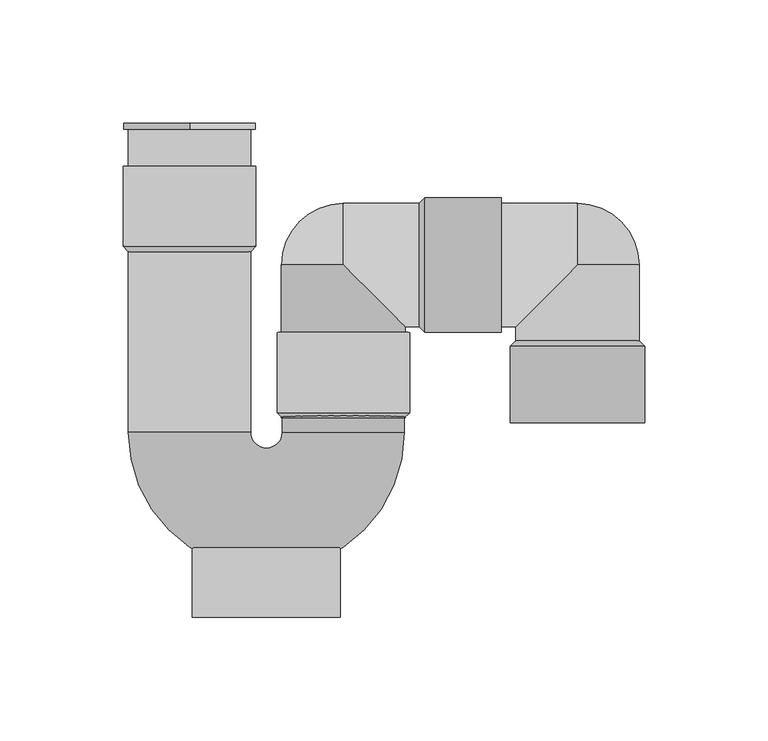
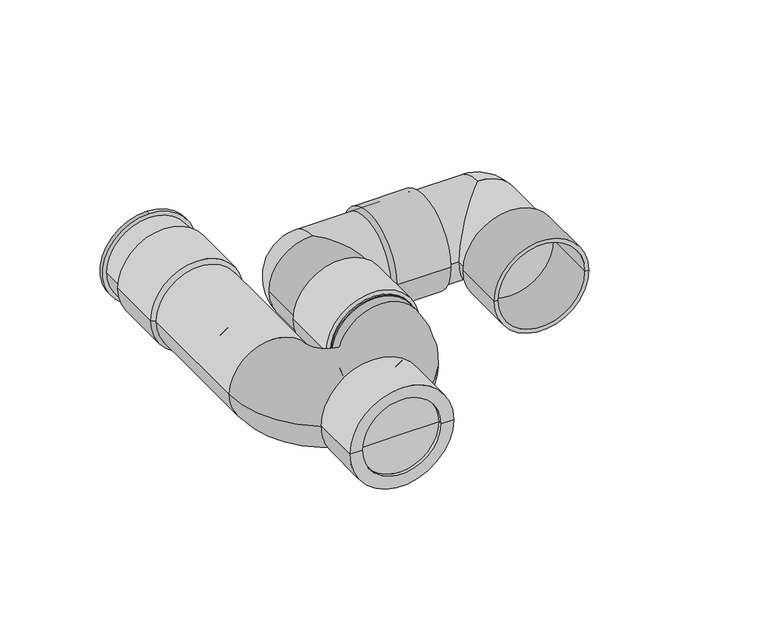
"""IFC4 building model written with IfcOpenShell, lengths in millimetres: pipe fitting geometry, NLRS_52_UN_PIF_PVC Universeel Sifon_PipeLife : Grijs, var. DN/OD."""

from ifc_helpers import new_model, si_unit, point, frame, origin, origin_2d, place, context, project, spatial, polyline, circle_curve, ellipse_curve, trimmed, segment, composite_curve, outline, extrude, source, transform, mapped, element, save
from ifc_brep_helpers import plane_surface, cylinder_surface, revolved_surface, advanced_brep


def pipe_fitting_5ac68bb0(model_context):
    return source(origin(), model_context, "Body", "SolidModel", [
        advanced_brep(
        [(126.4, -11.6183548, 0.0), (126.4, 42.9816452, 0.0), (126.4, 40.7816452, 0.0), (126.4, -9.4183548, 0.0), (95.4, -11.6183548, 0.0), (95.4, 42.9816452, 0.0), (93.2, -9.4183548, 0.0), (93.2, 40.7816452, 0.0)],
        [
            (0, 1, circle_curve(frame((126.4, 15.6816452, 0.0), z_axis=(1.0, 0.0, 0.0), x_axis=(0.0, 1.0000000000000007, 0.0)), 27.3)),
            (1, 2),
            (2, 3, circle_curve(frame((126.4, 15.6816452, 0.0), z_axis=(-1.0, 0.0, 0.0), x_axis=(0.0, 1.0000000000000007, 0.0)), 25.1)),
            (3, 0),
            (1, 0, circle_curve(frame((126.4, 15.6816452, 0.0), z_axis=(1.0, 0.0, 0.0), x_axis=(0.0, 1.0000000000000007, 0.0)), 27.3)),
            (3, 2, circle_curve(frame((126.4, 15.6816452, 0.0), z_axis=(-1.0, 0.0, 0.0), x_axis=(0.0, 1.0000000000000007, 0.0)), 25.1)),
            (4, 5, circle_curve(frame((95.4, 15.6816452, 0.0), z_axis=(1.0, 0.0, 0.0), x_axis=(0.0, 1.0000000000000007, 0.0)), 27.3)),
            (5, 1),
            (0, 4),
            (5, 4, circle_curve(frame((95.4, 15.6816452, 0.0), z_axis=(1.0, 0.0, 0.0), x_axis=(0.0, 1.0000000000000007, 0.0)), 27.3)),
            (6, 7, circle_curve(frame((93.2, 15.6816452, 0.0), z_axis=(1.0, 0.0, 0.0), x_axis=(0.0, 1.0000000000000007, 0.0)), 25.1)),
            (7, 5),
            (4, 6),
            (7, 6, circle_curve(frame((93.2, 15.6816452, 0.0), z_axis=(1.0, 0.0, 0.0), x_axis=(0.0, 1.0000000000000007, 0.0)), 25.1)),
            (2, 7),
            (6, 3),
        ],
        [
            plane_surface(frame((126.4, 15.6816452, 0.0), z_axis=(1.0, 0.0, 0.0), x_axis=(0.0, 1.0, 0.0))),
            cylinder_surface(frame((95.4, 15.6816452, 0.0), z_axis=(-1.0000000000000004, 0.0, 0.0), x_axis=(0.0, 1.0000000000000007, 0.0)), 27.3),
            revolved_surface(polyline([(95.4, 42.9816452, 0.0), (93.2, 40.7816452, 0.0)]), (95.4, 15.6816452, 0.0), (-1.0000000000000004, 0.0, 0.0)),
            revolved_surface(polyline([(93.2, 40.78164520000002, 0.0), (126.40000000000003, 40.78164520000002, 0.0)]), (95.4, 15.6816452, 0.0), (-1.0000000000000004, 0.0, 0.0)),
        ],
        [
            (0, [[1, 2, 3, 4]]),
            (0, [[5, -4, 6, -2]]),
            (1, [[7, 8, -1, 9]]),
            (1, [[10, -9, -5, -8]]),
            (2, [[11, 12, -7, 13]]),
            (2, [[14, -13, -10, -12]]),
            (3, [[-3, 15, -11, 16]]),
            (3, [[-6, -16, -14, -15]]),
        ],
    ),
        advanced_brep(
        [(37.3, -46.3183548, 0.0), (87.5, -46.3183548, 0.0), (87.5, -9.4183548, 0.0), (62.4, 15.6816452, 25.1), (37.3, 15.6816452, 0.0), (62.4, 15.6816452, -25.1), (95.4, 40.7816452, 0.0), (95.4, -9.4183548, 0.0), (62.4, 40.7816452, 0.0)],
        [
            (0, 1, circle_curve(frame((62.4, -46.3183548, 0.0), z_axis=(0.0, -1.0, 0.0), x_axis=(1.0000000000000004, 0.0, 0.0)), 25.1)),
            (1, 0, circle_curve(frame((62.4, -46.3183548, 0.0), z_axis=(0.0, -1.0, 0.0), x_axis=(1.0000000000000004, 0.0, 0.0)), 25.1)),
            (1, 2),
            (2, 3, ellipse_curve(frame((62.4, 15.6816452, 0.0), z_axis=(-0.7071067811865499, -0.7071067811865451, 0.0), x_axis=(-0.7071067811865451, 0.7071067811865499, 0.0)), 35.4967604, 25.1)),
            (3, 4, circle_curve(frame((62.4, 15.6816452, 0.0), z_axis=(0.0, -1.0, 0.0), x_axis=(1.0000000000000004, 0.0, 0.0)), 25.1)),
            (4, 0),
            (4, 5, circle_curve(frame((62.4, 15.6816452, 0.0), z_axis=(0.0, -1.0, 0.0), x_axis=(1.0000000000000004, 0.0, 0.0)), 25.1)),
            (5, 2, ellipse_curve(frame((62.4, 15.6816452, 0.0), z_axis=(-0.7071067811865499, -0.7071067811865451, 0.0), x_axis=(-0.7071067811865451, 0.7071067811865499, 0.0)), 35.4967604, 25.1)),
            (6, 7, circle_curve(frame((95.4, 15.6816452, 0.0), z_axis=(1.0, 0.0, 0.0), x_axis=(0.0, -1.0000000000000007, 0.0)), 25.1)),
            (7, 6, circle_curve(frame((95.4, 15.6816452, 0.0), z_axis=(1.0, 0.0, 0.0), x_axis=(0.0, -1.0000000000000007, 0.0)), 25.1)),
            (6, 8),
            (8, 3, circle_curve(frame((62.4, 15.6816452, 0.0), z_axis=(1.0, 0.0, 0.0), x_axis=(0.0, -1.0000000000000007, 0.0)), 25.1)),
            (2, 7),
            (5, 8, circle_curve(frame((62.4, 15.6816452, 0.0), z_axis=(1.0, 0.0, 0.0), x_axis=(0.0, -1.0000000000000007, 0.0)), 25.1)),
        ],
        [
            plane_surface(frame((62.4, -46.3183548, 0.0), z_axis=(0.0, -1.0, 0.0), x_axis=(0.0, 0.0, 1.0))),
            cylinder_surface(frame((62.4, 15.6816452, 0.0), z_axis=(0.0, 1.0000000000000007, 0.0), x_axis=(1.0000000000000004, 0.0, 0.0)), 25.1),
            plane_surface(frame((95.4, 15.6816452, 0.0), z_axis=(1.0, 0.0, 0.0), x_axis=(0.0, 0.0, 1.0))),
            cylinder_surface(frame((95.4, 15.6816452, 0.0), z_axis=(1.0000000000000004, 0.0, 0.0), x_axis=(0.0, -1.0000000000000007, 0.0)), 25.1),
            revolved_surface(trimmed(ellipse_curve(frame((62.4, 15.6816452, 0.0), z_axis=(1.0000000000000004, 0.0, 0.0), x_axis=(0.0, 0.0, 1.0000000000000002)), 25.1, 25.1), [point((62.4, 15.6816452, -25.1))], [point((62.4, 15.6816452, 25.1))], True, "CARTESIAN"), (62.4, 15.6816452, -6.3375), (0.0, 0.0, 1.0000000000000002)),
        ],
        [
            (0, [[1, 2]]),
            (1, [[-2, 3, 4, 5, 6]]),
            (1, [[-1, -6, 7, 8, -3]]),
            (2, [[9, 10]]),
            (3, [[-9, 11, 12, -4, 13]]),
            (3, [[-10, -13, -8, 14, -11]]),
            (4, [[-5, -12, -14, -7]]),
        ],
    ),
        advanced_brep(
        [(130.1, -48.3183548, 0.0), (184.7, -48.3183548, 0.0), (182.5, -48.3183548, 0.0), (132.3, -48.3183548, 0.0), (130.1, -17.3183548, 0.0), (184.7, -17.3183548, 0.0), (132.3, -15.1183548, 0.0), (182.5, -15.1183548, 0.0)],
        [
            (0, 1, circle_curve(frame((157.4, -48.3183548, 0.0), z_axis=(0.0, -1.0, 0.0), x_axis=(1.0000000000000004, 0.0, 0.0)), 27.3)),
            (1, 2),
            (2, 3, circle_curve(frame((157.4, -48.3183548, 0.0), z_axis=(0.0, 1.0, 0.0), x_axis=(1.0000000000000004, 0.0, 0.0)), 25.1)),
            (3, 0),
            (1, 0, circle_curve(frame((157.4, -48.3183548, 0.0), z_axis=(0.0, -1.0, 0.0), x_axis=(1.0000000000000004, 0.0, 0.0)), 27.3)),
            (3, 2, circle_curve(frame((157.4, -48.3183548, 0.0), z_axis=(0.0, 1.0, 0.0), x_axis=(1.0000000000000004, 0.0, 0.0)), 25.1)),
            (4, 5, circle_curve(frame((157.4, -17.3183548, 0.0), z_axis=(0.0, -1.0, 0.0), x_axis=(1.0000000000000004, 0.0, 0.0)), 27.3)),
            (5, 1),
            (0, 4),
            (5, 4, circle_curve(frame((157.4, -17.3183548, 0.0), z_axis=(0.0, -1.0, 0.0), x_axis=(1.0000000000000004, 0.0, 0.0)), 27.3)),
            (6, 7, circle_curve(frame((157.4, -15.1183548, 0.0), z_axis=(0.0, -1.0, 0.0), x_axis=(1.0000000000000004, 0.0, 0.0)), 25.1)),
            (7, 5),
            (4, 6),
            (7, 6, circle_curve(frame((157.4, -15.1183548, 0.0), z_axis=(0.0, -1.0, 0.0), x_axis=(1.0000000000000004, 0.0, 0.0)), 25.1)),
            (2, 7),
            (6, 3),
        ],
        [
            plane_surface(frame((157.4, -48.3183548, 0.0), z_axis=(0.0, -1.0, 0.0), x_axis=(1.0, 0.0, 0.0))),
            cylinder_surface(frame((157.4, -17.3183548, 0.0), z_axis=(0.0, 1.0000000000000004, 0.0), x_axis=(1.0000000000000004, 0.0, 0.0)), 27.3),
            revolved_surface(polyline([(184.7, -17.3183548, 0.0), (182.5, -15.1183548, 0.0)]), (157.4, -17.3183548, 0.0), (0.0, 1.0000000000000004, 0.0)),
            revolved_surface(polyline([(182.50000000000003, -15.118354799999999, 0.0), (182.50000000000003, -48.31835480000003, 0.0)]), (157.4, -17.3183548, 0.0), (0.0, 1.0000000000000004, 0.0)),
        ],
        [
            (0, [[1, 2, 3, 4]]),
            (0, [[5, -4, 6, -2]]),
            (1, [[7, 8, -1, 9]]),
            (1, [[10, -9, -5, -8]]),
            (2, [[11, 12, -7, 13]]),
            (2, [[14, -13, -10, -12]]),
            (3, [[-3, 15, -11, 16]]),
            (3, [[-6, -16, -14, -15]]),
        ],
    ),
        advanced_brep(
        [(95.4, 40.7816452, 0.0), (95.4, -9.4183548, 0.0), (132.3, -9.4183548, 0.0), (157.4, 15.6816452, 25.1), (157.4, 40.7816452, 0.0), (157.4, 15.6816452, -25.1), (182.5, -17.3183548, 0.0), (132.3, -17.3183548, 0.0), (182.5, 15.6816452, 0.0)],
        [
            (0, 1, circle_curve(frame((95.4, 15.6816452, 0.0), z_axis=(-1.0, 0.0, 0.0), x_axis=(0.0, -1.0000000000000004, 0.0)), 25.1)),
            (1, 0, circle_curve(frame((95.4, 15.6816452, 0.0), z_axis=(-1.0, 0.0, 0.0), x_axis=(0.0, -1.0000000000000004, 0.0)), 25.1)),
            (1, 2),
            (2, 3, ellipse_curve(frame((157.4, 15.6816452, 0.0), z_axis=(-0.707106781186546, 0.7071067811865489, 0.0), x_axis=(0.7071067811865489, 0.707106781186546, 0.0)), 35.4967604, 25.1)),
            (3, 4, circle_curve(frame((157.4, 15.6816452, 0.0), z_axis=(-1.0, 0.0, 0.0), x_axis=(0.0, -1.0000000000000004, 0.0)), 25.1)),
            (4, 0),
            (4, 5, circle_curve(frame((157.4, 15.6816452, 0.0), z_axis=(-1.0, 0.0, 0.0), x_axis=(0.0, -1.0000000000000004, 0.0)), 25.1)),
            (5, 2, ellipse_curve(frame((157.4, 15.6816452, 0.0), z_axis=(-0.707106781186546, 0.7071067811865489, 0.0), x_axis=(0.7071067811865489, 0.707106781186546, 0.0)), 35.4967604, 25.1)),
            (6, 7, circle_curve(frame((157.4, -17.3183548, 0.0), z_axis=(0.0, -1.0, 0.0), x_axis=(-1.0000000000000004, 0.0, 0.0)), 25.1)),
            (7, 6, circle_curve(frame((157.4, -17.3183548, 0.0), z_axis=(0.0, -1.0, 0.0), x_axis=(-1.0000000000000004, 0.0, 0.0)), 25.1)),
            (6, 8),
            (8, 3, circle_curve(frame((157.4, 15.6816452, 0.0), z_axis=(0.0, -1.0, 0.0), x_axis=(-1.0000000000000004, 0.0, 0.0)), 25.1)),
            (2, 7),
            (5, 8, circle_curve(frame((157.4, 15.6816452, 0.0), z_axis=(0.0, -1.0, 0.0), x_axis=(-1.0000000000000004, 0.0, 0.0)), 25.1)),
        ],
        [
            plane_surface(frame((95.4, 15.6816452, 0.0), z_axis=(-1.0, 0.0, 0.0), x_axis=(0.0, 0.0, 1.0))),
            cylinder_surface(frame((157.4, 15.6816452, 0.0), z_axis=(1.0000000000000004, 0.0, 0.0), x_axis=(0.0, -1.0000000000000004, 0.0)), 25.1),
            plane_surface(frame((157.4, -17.3183548, 0.0), z_axis=(0.0, -1.0, 0.0), x_axis=(0.0, 0.0, 1.0))),
            cylinder_surface(frame((157.4, -17.3183548, 0.0), z_axis=(0.0, -1.0000000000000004, 0.0), x_axis=(-1.0000000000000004, 0.0, 0.0)), 25.1),
            revolved_surface(trimmed(ellipse_curve(frame((157.4, 15.6816452, 0.0), z_axis=(0.0, -1.0000000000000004, 0.0), x_axis=(0.0, 0.0, 1.0)), 25.1, 25.1), [point((157.4, 15.6816452, -25.1))], [point((157.4, 15.6816452, 25.1))], True, "CARTESIAN"), (157.4, 15.6816452, -6.3375), (0.0, 0.0, 1.0)),
        ],
        [
            (0, [[1, 2]]),
            (1, [[-2, 3, 4, 5, 6]]),
            (1, [[-1, -6, 7, 8, -3]]),
            (2, [[9, 10]]),
            (3, [[-9, 11, 12, -4, 13]]),
            (3, [[-10, -13, -8, 14, -11]]),
            (4, [[-5, -12, -14, -7]]),
        ],
    ),
        advanced_brep(
        [(61.2, -99.0183548, 0.0), (1.2, -99.0183548, 0.0), (31.2, -99.0183548, 0.0), (61.2, -127.3183548, 0.0), (1.2, -127.3183548, 0.0), (53.95, -127.3183548, 0.0), (8.45, -127.3183548, 0.0), (53.95, -125.3183548, 0.0), (8.45, -125.3183548, 0.0), (31.2, -125.3183548, 0.0)],
        [
            (0, 1, circle_curve(frame((31.2, -99.0183548, 0.0), z_axis=(0.0, 1.0, 0.0), x_axis=(-1.0, 0.0, 0.0)), 30.0)),
            (1, 2),
            (2, 0),
            (1, 0, circle_curve(frame((31.2, -99.0183548, 0.0), z_axis=(0.0, 1.0, 0.0), x_axis=(-1.0, 0.0, 0.0)), 30.0)),
            (3, 4, circle_curve(frame((31.2, -127.3183548, 0.0), z_axis=(0.0, 1.0, 0.0), x_axis=(-1.0, 0.0, 0.0)), 30.0)),
            (4, 1),
            (0, 3),
            (4, 3, circle_curve(frame((31.2, -127.3183548, 0.0), z_axis=(0.0, 1.0, 0.0), x_axis=(-1.0, 0.0, 0.0)), 30.0)),
            (5, 6, circle_curve(frame((31.2, -127.3183548, 0.0), z_axis=(0.0, 1.0, 0.0), x_axis=(-1.0, 0.0, 0.0)), 22.75)),
            (6, 4),
            (3, 5),
            (6, 5, circle_curve(frame((31.2, -127.3183548, 0.0), z_axis=(0.0, 1.0, 0.0), x_axis=(-1.0, 0.0, 0.0)), 22.75)),
            (7, 8, circle_curve(frame((31.2, -125.3183548, 0.0), z_axis=(0.0, 1.0, 0.0), x_axis=(-1.0, 0.0, 0.0)), 22.75)),
            (8, 6),
            (5, 7),
            (8, 7, circle_curve(frame((31.2, -125.3183548, 0.0), z_axis=(0.0, 1.0, 0.0), x_axis=(-1.0, 0.0, 0.0)), 22.75)),
            (9, 8),
            (7, 9),
        ],
        [
            plane_surface(frame((31.2, -99.0183548, 0.0), z_axis=(0.0, 1.0, 0.0), x_axis=(-1.0, 0.0, 0.0))),
            cylinder_surface(frame((31.2, -127.3183548, 0.0), z_axis=(0.0, -1.0, 0.0), x_axis=(-1.0, 0.0, 0.0)), 30.0),
            plane_surface(frame((31.2, -127.3183548, 0.0), z_axis=(0.0, -1.0, 0.0), x_axis=(-1.0, 0.0, 0.0))),
            revolved_surface(polyline([(8.45, -127.3183548, 0.0), (8.45, -125.3183548, 0.0)]), (31.2, -127.3183548, 0.0), (0.0, -1.0, 0.0)),
            plane_surface(frame((31.2, -125.3183548, 0.0), z_axis=(0.0, -1.0, 0.0), x_axis=(-1.0, 0.0, 0.0))),
        ],
        [
            (0, [[1, 2, 3]]),
            (0, [[4, -3, -2]]),
            (1, [[5, 6, -1, 7]]),
            (1, [[8, -7, -4, -6]]),
            (2, [[9, 10, -5, 11]]),
            (2, [[12, -11, -8, -10]]),
            (3, [[13, 14, -9, 15]]),
            (3, [[16, -15, -12, -14]]),
            (4, [[17, -13, 18]]),
            (4, [[-18, -16, -17]]),
        ],
    ),
        advanced_brep(
        [(26.9, 23.1816452, 0.0), (-26.9, 23.1816452, 0.0), (-26.9, 55.6816452, 0.0), (26.9, 55.6816452, 0.0), (24.8, 21.0816452, 0.0), (-24.8, 21.0816452, 0.0), (24.8, 55.6816452, 0.0), (-24.8, 55.6816452, 0.0)],
        [
            (0, 1, circle_curve(frame((0.0, 23.1816452, 0.0), z_axis=(0.0, 1.0, 0.0), x_axis=(-1.0, 0.0, 0.0)), 26.9)),
            (1, 2),
            (2, 3, circle_curve(frame((0.0, 55.6816452, 0.0), z_axis=(0.0, -1.0, 0.0), x_axis=(-1.0, 0.0, 0.0)), 26.9)),
            (3, 0),
            (1, 0, circle_curve(frame((0.0, 23.1816452, 0.0), z_axis=(0.0, 1.0, 0.0), x_axis=(-1.0, 0.0, 0.0)), 26.9)),
            (3, 2, circle_curve(frame((0.0, 55.6816452, 0.0), z_axis=(0.0, -1.0, 0.0), x_axis=(-1.0, 0.0, 0.0)), 26.9)),
            (4, 5, circle_curve(frame((0.0, 21.0816452, 0.0), z_axis=(0.0, 1.0, 0.0), x_axis=(-1.0, 0.0, 0.0)), 24.8)),
            (5, 1),
            (0, 4),
            (5, 4, circle_curve(frame((0.0, 21.0816452, 0.0), z_axis=(0.0, 1.0, 0.0), x_axis=(-1.0, 0.0, 0.0)), 24.8)),
            (6, 7, circle_curve(frame((0.0, 55.6816452, 0.0), z_axis=(0.0, 1.0, 0.0), x_axis=(-1.0, 0.0, 0.0)), 24.8)),
            (7, 5),
            (4, 6),
            (7, 6, circle_curve(frame((0.0, 55.6816452, 0.0), z_axis=(0.0, 1.0, 0.0), x_axis=(-1.0, 0.0, 0.0)), 24.8)),
            (2, 7),
            (6, 3),
        ],
        [
            cylinder_surface(frame((0.0, 65.1287367, 0.0), z_axis=(0.0, -1.0, 0.0), x_axis=(-1.0, 0.0, 0.0)), 26.9),
            revolved_surface(polyline([(-26.9, 23.1816452, 0.0), (-24.8, 21.0816452, 0.0)]), (0.0, 65.1287367, 0.0), (0.0, -1.0, 0.0)),
            revolved_surface(polyline([(-24.8, 21.081645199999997, 0.0), (-24.8, 55.6816452, 0.0)]), (0.0, 65.1287367, 0.0), (0.0, -1.0, 0.0)),
            plane_surface(frame((0.0, 55.6816452, 0.0), z_axis=(0.0, 1.0, 0.0), x_axis=(-1.0, 0.0, 0.0))),
        ],
        [
            (0, [[1, 2, 3, 4]]),
            (0, [[5, -4, 6, -2]]),
            (1, [[7, 8, -1, 9]]),
            (1, [[10, -9, -5, -8]]),
            (2, [[11, 12, -7, 13]]),
            (2, [[14, -13, -10, -12]]),
            (3, [[-3, 15, -11, 16]]),
            (3, [[-6, -16, -14, -15]]),
        ],
    ),
        extrude(outline(composite_curve([segment(trimmed(circle_curve(origin_2d(), 26.9), [point((-26.9, 0.0))], [point((26.9, 0.0))], False, "CARTESIAN"), True, "CONTINUOUS"), segment(trimmed(circle_curve(origin_2d(), 26.9), [point((26.9, 0.0))], [point((-26.9, 0.0))], False, "CARTESIAN"), True, "CONTINUOUS")], self_intersect=False)), frame((0.0, 70.7816452, 0.0), z_axis=(0.0, 1.0, 0.0), x_axis=(0.0, 0.0, 1.0)), (0.0, 0.0, 1.0), 2.4),
        advanced_brep(
        [(89.3, -44.2183548, 0.0), (35.5, -44.2183548, 0.0), (35.5, -11.7183548, 0.0), (89.3, -11.7183548, 0.0), (87.2, -46.3183548, 0.0), (37.6, -46.3183548, 0.0), (62.4, -11.7183548, 0.0), (62.4, -46.3183548, 0.0)],
        [
            (0, 1, circle_curve(frame((62.4, -44.2183548, 0.0), z_axis=(0.0, 1.0, 0.0), x_axis=(-1.0, 0.0, 0.0)), 26.9)),
            (1, 2),
            (2, 3, circle_curve(frame((62.4, -11.7183548, 0.0), z_axis=(0.0, -1.0, 0.0), x_axis=(-1.0, 0.0, 0.0)), 26.9)),
            (3, 0),
            (1, 0, circle_curve(frame((62.4, -44.2183548, 0.0), z_axis=(0.0, 1.0, 0.0), x_axis=(-1.0, 0.0, 0.0)), 26.9)),
            (3, 2, circle_curve(frame((62.4, -11.7183548, 0.0), z_axis=(0.0, -1.0, 0.0), x_axis=(-1.0, 0.0, 0.0)), 26.9)),
            (4, 5, circle_curve(frame((62.4, -46.3183548, 0.0), z_axis=(0.0, 1.0, 0.0), x_axis=(-1.0, 0.0, 0.0)), 24.8)),
            (5, 1),
            (0, 4),
            (5, 4, circle_curve(frame((62.4, -46.3183548, 0.0), z_axis=(0.0, 1.0, 0.0), x_axis=(-1.0, 0.0, 0.0)), 24.8)),
            (2, 6),
            (6, 3),
            (7, 5),
            (4, 7),
        ],
        [
            cylinder_surface(frame((62.4, -32.6407944, 0.0), z_axis=(0.0, -1.0, 0.0), x_axis=(-1.0, 0.0, 0.0)), 26.9),
            revolved_surface(polyline([(35.5, -44.2183548, 0.0), (37.6, -46.3183548, 0.0)]), (62.4, -32.6407944, 0.0), (0.0, -1.0, 0.0)),
            plane_surface(frame((62.4, -11.7183548, 0.0), z_axis=(0.0, 1.0, 0.0), x_axis=(-1.0, 0.0, 0.0))),
            plane_surface(frame((62.4, -46.3183548, 0.0), z_axis=(0.0, -1.0, 0.0), x_axis=(-1.0, 0.0, 0.0))),
        ],
        [
            (0, [[1, 2, 3, 4]]),
            (0, [[5, -4, 6, -2]]),
            (1, [[7, 8, -1, 9]]),
            (1, [[10, -9, -5, -8]]),
            (2, [[-3, 11, 12]]),
            (2, [[-6, -12, -11]]),
            (3, [[13, -7, 14]]),
            (3, [[-14, -10, -13]]),
        ],
    ),
        advanced_brep(
        [(37.6, -46.3183548, 0.0), (87.2, -46.3183548, 0.0), (37.6, -52.2183548, 0.0), (87.2, -52.2183548, 0.0), (-24.8, -52.2183548, 0.0), (24.8, -52.2183548, 0.0), (24.8, 73.1816452, 0.0), (-24.8, 73.1816452, 0.0)],
        [
            (0, 1, circle_curve(frame((62.4, -46.3183548, 0.0), z_axis=(0.0, 1.0, 0.0), x_axis=(1.0, 0.0, 0.0)), 24.8)),
            (1, 0, circle_curve(frame((62.4, -46.3183548, 0.0), z_axis=(0.0, 1.0, 0.0), x_axis=(1.0, 0.0, 0.0)), 24.8)),
            (0, 2),
            (2, 3, circle_curve(frame((62.4, -52.2183548, 0.0), z_axis=(0.0, 1.0, 0.0), x_axis=(1.0, 0.0, 0.0)), 24.8)),
            (3, 1),
            (3, 2, circle_curve(frame((62.4, -52.2183548, 0.0), z_axis=(0.0, 1.0, 0.0), x_axis=(1.0, 0.0, 0.0)), 24.8)),
            (4, 3, circle_curve(frame((31.2, -52.2183548, 0.0), z_axis=(0.0, 0.0, 1.0), x_axis=(1.0, 0.0, 0.0)), 56.0)),
            (2, 5, circle_curve(frame((31.2, -52.2183548, 0.0), z_axis=(0.0, 0.0, -1.0), x_axis=(1.0, 0.0, 0.0)), 6.4)),
            (5, 4, circle_curve(frame((0.0, -52.2183548, 0.0), z_axis=(0.0, -1.0, 0.0), x_axis=(-1.0, 0.0, 0.0)), 24.8)),
            (4, 5, circle_curve(frame((0.0, -52.2183548, 0.0), z_axis=(0.0, -1.0, 0.0), x_axis=(-1.0, 0.0, 0.0)), 24.8)),
            (6, 7, circle_curve(frame((0.0, 73.1816452, 0.0), z_axis=(0.0, 1.0, 0.0), x_axis=(-1.0, 0.0, 0.0)), 24.8)),
            (7, 6, circle_curve(frame((0.0, 73.1816452, 0.0), z_axis=(0.0, 1.0, 0.0), x_axis=(-1.0, 0.0, 0.0)), 24.8)),
            (5, 6),
            (7, 4),
        ],
        [
            plane_surface(frame((62.4, -46.3183548, 0.0), z_axis=(0.0, 1.0, 0.0), x_axis=(0.0, 0.0, 1.0))),
            cylinder_surface(frame((62.4, -46.3183548, 0.0), z_axis=(0.0, 1.0, 0.0), x_axis=(1.0, 0.0, 0.0)), 24.8),
            revolved_surface(trimmed(ellipse_curve(frame((62.4, -52.2183548, 0.0), z_axis=(0.0, 1.0, 0.0), x_axis=(1.0, 0.0, 0.0)), 24.8, 24.8), [point((37.6, -52.2183548, 0.0))], [point((87.2, -52.2183548, 0.0))], True, "CARTESIAN"), (31.2, -52.2183548, 0.0), (0.0, 0.0, -1.0)),
            revolved_surface(trimmed(ellipse_curve(frame((62.4, -52.2183548, 0.0), z_axis=(0.0, 1.0, 0.0), x_axis=(1.0, 0.0, 0.0)), 24.8, 24.8), [point((87.2, -52.2183548, 0.0))], [point((37.6, -52.2183548, 0.0))], True, "CARTESIAN"), (31.2, -52.2183548, 0.0), (0.0, 0.0, -1.0)),
            plane_surface(frame((0.0, 73.1816452, 0.0), z_axis=(0.0, 1.0, 0.0), x_axis=(0.0, 0.0, 1.0))),
            cylinder_surface(frame((0.0, -52.2183548, 0.0), z_axis=(0.0, -1.0, 0.0), x_axis=(-1.0, 0.0, 0.0)), 24.8),
        ],
        [
            (0, [[1, 2]]),
            (1, [[-1, 3, 4, 5]]),
            (1, [[-2, -5, 6, -3]]),
            (2, [[7, -4, 8, 9]]),
            (3, [[-8, -6, -7, 10]]),
            (4, [[11, 12]]),
            (5, [[-9, 13, -12, 14]]),
            (5, [[-10, -14, -11, -13]]),
        ],
    ),
    ])


if __name__ == "__main__":
    model = new_model("IFC4")
    model_context = context("Model", 3, world=origin())
    ifc_project = project(units=[si_unit("LENGTHUNIT", "METRE", prefix="MILLI")], contexts=[model_context])
    site = spatial("IfcSite", under=ifc_project)
    building = spatial("IfcBuilding", under=site)
    placement = place(None, origin())
    pipe_fitting_shape = pipe_fitting_5ac68bb0(model_context)
    element("IfcPipeFitting", 1, ObjectType="NLRS_52_UN_PIF_PVC Universeel Sifon_PipeLife : Grijs, var. DN/OD", at=placement, inside=building, context=model_context, shape_type="MappedRepresentation", body=[
        mapped(pipe_fitting_shape, transform((0.0, 0.0, 0.0), x_axis=(1.0, 0.0, 0.0), y_axis=(0.0, 1.0, 0.0), z_axis=(0.0, 0.0, 1.0))),
    ])
    save(model, "model.ifc")
